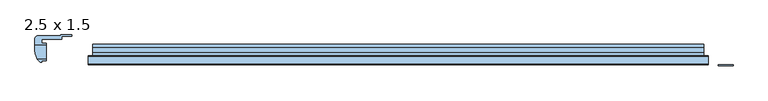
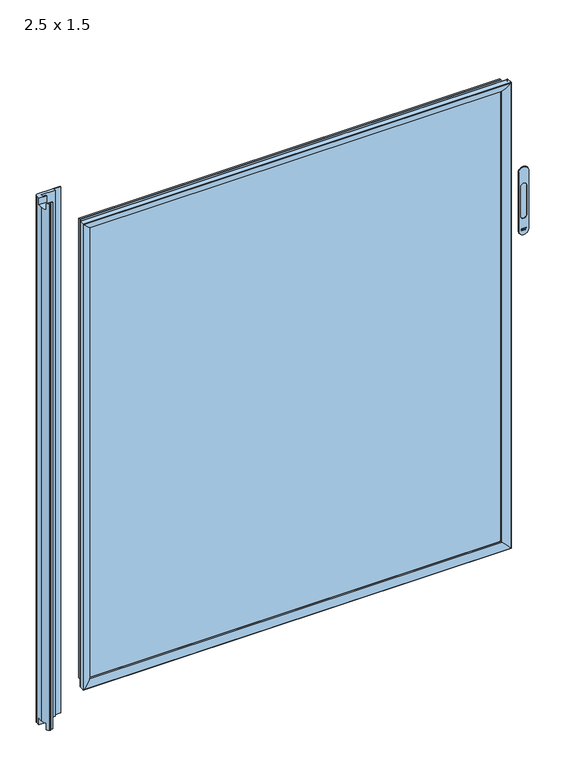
"""IFC4 building model written with IfcOpenShell, lengths in millimetres: window geometry, Windows_Opening-Slide_Strugal_S110P2_One-Leaf-Fixed-Leaf_INT (2) : 2.5 x 1.5."""

from ifc_helpers import new_model, si_unit, point, frame, frame_2d, origin, place, context, project, spatial, polyline, circle_curve, ellipse_curve, trimmed, segment, composite_curve, outline, extrude, source, transform, mapped, element, save
from ifc_brep_helpers import plane_surface, cylinder_surface, revolved_surface, advanced_brep


def window_2_5_x_1_5_7387efda(model_context):
    return source(origin(), model_context, "Body", "SolidModel", [
        extrude(outline(composite_curve([segment(polyline([(972.9586097, 1153.480139), (972.9586097, 1157.084604)]), True, "CONTINUOUS"), segment(trimmed(circle_curve(frame_2d((972.4036403, 1157.084604)), 0.5549694), [point((972.9586097, 1157.084604))], [point((971.8486709, 1157.0844702))], True, "CARTESIAN"), True, "CONTINUOUS"), segment(polyline([(971.8486709, 1157.0844702), (971.849708, 1152.7830396)]), True, "CONTINUOUS"), segment(trimmed(circle_curve(frame_2d((971.0399633, 1152.9448686)), 0.8257573), [point((971.849708, 1152.7830396))], [point((971.0048412, 1152.1198585))], False, "CARTESIAN"), True, "CONTINUOUS"), segment(polyline([(971.0048412, 1152.1198585), (971.0038007, 1157.2002755)]), True, "CONTINUOUS"), segment(trimmed(circle_curve(frame_2d((972.3627874, 1157.2005538)), 1.3589868), [point((971.0038007, 1157.2002755))], [point((973.7217741, 1157.2001632))], False, "CARTESIAN"), True, "CONTINUOUS"), segment(polyline([(973.7217741, 1157.2001632), (973.7207336, 1153.5797006)]), True, "CONTINUOUS"), segment(trimmed(circle_curve(frame_2d((974.2780726, 1153.5706444)), 0.5574126), [point((973.7207336, 1153.5797006))], [point((974.8354852, 1153.5706444))], True, "CARTESIAN"), True, "CONTINUOUS"), segment(polyline([(974.8354852, 1153.5706444), (974.8354852, 1160.934654), (970.9985413, 1160.934654), (970.9985413, 1161.7864395), (974.8354852, 1161.7864395), (974.8354852, 1163.117639)]), True, "CONTINUOUS"), segment(trimmed(circle_curve(frame_2d((975.5885857, 1163.117639)), 0.7531005), [point((974.8354852, 1163.117639))], [point((975.6906738, 1163.863788))], False, "CARTESIAN"), True, "CONTINUOUS"), segment(polyline([(975.6906738, 1163.863788), (975.6925581, 1153.5034825)]), True, "CONTINUOUS"), segment(trimmed(circle_curve(frame_2d((974.3254864, 1153.5032339)), 1.3670718), [point((975.6925581, 1153.5034825))], [point((972.9586097, 1153.480139))], False, "CARTESIAN"), True, "CONTINUOUS")], self_intersect=False)), frame((0.0, -72.7, 0.0), z_axis=(0.0, 1.0, 0.0), x_axis=(0.0, 0.0, 1.0)), (0.0, 0.0, 1.0), 2.2),
        advanced_brep(
        [(1171.0, -72.4, 972.0), (1171.0, -72.4, 1128.0), (1145.0, -72.4, 1128.0), (1145.0, -72.4, 972.0), (1150.2, -72.4, 1011.0), (1150.2, -72.4, 1089.0), (1165.8, -72.4, 1089.0), (1165.8, -72.4, 1011.0), (1171.0, -70.5, 972.0), (1145.0, -70.5, 972.0), (1145.0, -70.5, 1128.0), (1171.0, -70.5, 1128.0), (1150.2, -71.6358905, 1089.0), (1150.2, -71.6358905, 1011.0), (1165.8, -71.6358905, 1011.0), (1165.8, -71.6358905, 1089.0)],
        [
            (0, 1),
            (1, 2, circle_curve(frame((1158.0, -72.4, 1128.0), z_axis=(0.0, -1.0, 0.0), x_axis=(1.0, 0.0, 0.0)), 13.0)),
            (2, 3),
            (3, 0, circle_curve(frame((1158.0, -72.4, 972.0), z_axis=(0.0, -1.0, 0.0), x_axis=(1.0, 0.0, 0.0)), 13.0)),
            (4, 5),
            (5, 6, circle_curve(frame((1158.0, -72.4, 1089.0), z_axis=(0.0, 1.0, 0.0), x_axis=(1.0, 0.0, 0.0)), 7.8)),
            (6, 7),
            (7, 4, circle_curve(frame((1158.0, -72.4, 1011.0), z_axis=(0.0, 1.0, 0.0), x_axis=(1.0, 0.0, 0.0)), 7.8)),
            (8, 9, circle_curve(frame((1158.0, -70.5, 972.0), z_axis=(0.0, 1.0, 0.0), x_axis=(1.0, 0.0, 0.0)), 13.0)),
            (9, 10),
            (10, 11, circle_curve(frame((1158.0, -70.5, 1128.0), z_axis=(0.0, 1.0, 0.0), x_axis=(1.0, 0.0, 0.0)), 13.0)),
            (11, 8),
            (0, 8),
            (11, 1),
            (10, 2),
            (9, 3),
            (12, 13),
            (13, 14, circle_curve(frame((1158.0, -71.6358905, 1011.0), z_axis=(0.0, -1.0, 0.0), x_axis=(1.0, 0.0, 0.0)), 7.8)),
            (14, 15),
            (15, 12, circle_curve(frame((1158.0, -71.6358905, 1089.0), z_axis=(0.0, -1.0, 0.0), x_axis=(1.0, 0.0, 0.0)), 7.8)),
            (12, 5),
            (4, 13),
            (7, 14),
            (6, 15),
        ],
        [
            plane_surface(frame((1171.0, -72.4, 1128.0), z_axis=(0.0, -1.0, 0.0), x_axis=(0.0, 0.0, 1.0))),
            plane_surface(frame((1171.0, -70.5, 1128.0), z_axis=(0.0, 1.0, 0.0), x_axis=(0.0, 0.0, -1.0))),
            plane_surface(frame((1171.0, -72.4, 972.0), z_axis=(1.0, 0.0, 0.0), x_axis=(0.0, 1.0, 0.0))),
            cylinder_surface(frame((1158.0, -70.5, 1128.0), z_axis=(0.0, -1.0, 0.0), x_axis=(1.0, 0.0, 0.0)), 13.0),
            plane_surface(frame((1145.0, -72.4, 1128.0), z_axis=(-1.0, 0.0, 0.0), x_axis=(0.0, 1.0, 0.0))),
            cylinder_surface(frame((1158.0, -70.5, 972.0), z_axis=(0.0, -1.0, 0.0), x_axis=(1.0, 0.0, 0.0)), 13.0),
            plane_surface(frame((1150.2, -71.6358905, 1089.0), z_axis=(0.0, -1.0, 0.0), x_axis=(1.0055735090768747e-12, 0.0, 1.0))),
            plane_surface(frame((1150.2, -85.5, 1089.0), z_axis=(1.0, 0.0, -1.0055735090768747e-12), x_axis=(0.0, 1.0, 0.0))),
            revolved_surface(polyline([(1165.8, -72.4, 1011.0), (1165.8, -71.6358905, 1011.0)]), (1158.0, -71.6358905, 1011.0), (0.0, -1.0, 0.0)),
            plane_surface(frame((1165.8, -85.5, 1011.0), z_axis=(-1.0, 0.0, 0.0), x_axis=(0.0, 1.0, 0.0))),
            revolved_surface(polyline([(1165.8, -72.4, 1089.0), (1165.8, -71.6358905, 1089.0)]), (1158.0, -71.6358905, 1089.0), (0.0, -1.0, 0.0)),
        ],
        [
            (0, [[1, 2, 3, 4], [5, 6, 7, 8]]),
            (1, [[9, 10, 11, 12]]),
            (2, [[-1, 13, -12, 14]]),
            (3, [[-2, -14, -11, 15]]),
            (4, [[-3, -15, -10, 16]]),
            (5, [[-4, -16, -9, -13]]),
            (6, [[17, 18, 19, 20]]),
            (7, [[-17, 21, -5, 22]]),
            (8, [[-18, -22, -8, 23]]),
            (9, [[-19, -23, -7, 24]]),
            (10, [[-20, -24, -6, -21]]),
        ],
    ),
        extrude(outline(polyline([(44.5, -34.5), (1119.0, -34.5), (1119.0, -39.5), (44.5, -39.5), (44.5, -34.5)])), frame((0.0, 0.0, 131.0), z_axis=(0.0, 0.0, 1.0), x_axis=(1.0, 0.0, 0.0)), (0.0, 0.0, 1.0), 1238.0),
        extrude(outline(polyline([(1119.0, -49.5), (1119.0, -54.5), (44.5, -54.5), (44.5, -49.5), (1119.0, -49.5)])), frame((0.0, 0.0, 131.0), z_axis=(0.0, 0.0, 1.0), x_axis=(1.0, 0.0, 0.0)), (0.0, 0.0, 1.0), 1238.0),
        advanced_brep(
        [(-45.5, -25.5000003, 41.0), (-45.5, -32.5, 41.0), (-37.8000003, -32.5, 41.0), (-37.8000003, -35.6, 41.0), (-57.4999996, -35.6, 41.0), (-57.4999996, -25.221168, 41.0), (-51.4788318, -19.2000003, 41.0), (-11.7456831, -19.2000003, 41.0), (-11.7456831, -18.1000005, 41.0), (7.6997431, -18.1000005, 41.0), (7.6997431, -20.139316, 41.0), (-10.3, -20.5050638, 41.0), (-10.3, -25.5000003, 41.0), (-48.626173, -65.7234493, 41.0), (-53.0246429, -60.6, 41.0), (-37.8000003, -60.6, 41.0), (-37.8000003, -63.7, 41.0), (-45.5, -63.7, 41.0), (-45.5, -66.5000001, 41.0), (-46.6121537, -66.5000001, 41.0), (-45.5, -25.5000003, 1459.0), (-10.3, -25.5000003, 1459.0), (-10.3, -20.5050638, 1459.0), (7.6997431, -20.139316, 1459.0), (7.6997431, -18.1000005, 1459.0), (-11.7456831, -18.1000005, 1459.0), (-11.7456831, -19.2000003, 1459.0), (-51.4788318, -19.2000003, 1459.0), (-57.4999996, -25.221168, 1459.0), (-57.4999996, -35.6, 58.0), (-57.4999996, -45.7124064, 58.0), (-57.4999996, -45.7124064, 1442.0), (-57.4999996, -35.5, 1442.0), (-57.4999996, -35.5, 1459.0), (-48.626173, -65.7234493, 1459.0), (-53.0904196, -60.5, 1459.0), (-53.0904196, -60.5, 1442.0), (-53.0246429, -60.6, 58.0), (-46.6121537, -66.5, 1459.0), (-45.5, -66.5000001, 1459.0), (-45.5, -63.7, 1459.0), (-37.8000003, -63.7, 1459.0), (-37.8000003, -60.6, 58.0), (-37.8000003, -35.6, 58.0), (-37.8000003, -32.5, 1459.0), (-37.8000003, -35.5, 1459.0), (-37.8000003, -35.5, 1442.0), (-37.8000003, -60.5, 1442.0), (-37.8000003, -60.5, 1459.0), (-45.5, -32.5, 1459.0)],
        [
            (0, 1),
            (1, 2),
            (2, 3),
            (3, 4),
            (4, 5),
            (5, 6, circle_curve(frame((-51.4788318, -25.221168, 41.0), z_axis=(0.0, 0.0, -1.0), x_axis=(0.0, -1.0, 0.0)), 6.0211677)),
            (6, 7),
            (7, 8),
            (8, 9),
            (9, 10),
            (10, 11),
            (11, 12),
            (12, 0),
            (13, 14, circle_curve(frame((-30.4999996, -45.7124064, 41.0), z_axis=(0.0, 0.0, -1.0), x_axis=(0.0, -1.0, 0.0)), 27.0)),
            (14, 15),
            (15, 16),
            (16, 17),
            (17, 18),
            (18, 19),
            (19, 13, circle_curve(frame((-46.6121537, -63.5, 41.0), z_axis=(0.0, 0.0, -1.0), x_axis=(0.0, -1.0, 0.0)), 3.0)),
            (20, 0),
            (12, 21),
            (21, 20),
            (11, 22),
            (22, 21),
            (10, 23),
            (23, 22),
            (9, 24),
            (24, 23),
            (8, 25),
            (25, 24),
            (7, 26),
            (26, 25),
            (6, 27),
            (27, 26),
            (5, 28),
            (28, 27, circle_curve(frame((-51.4788318, -25.221168, 1459.0), z_axis=(0.0, 0.0, -1.0), x_axis=(0.0, -1.0, 0.0)), 6.0211677)),
            (4, 29),
            (29, 30),
            (30, 31),
            (31, 32),
            (32, 33),
            (33, 28),
            (34, 35, circle_curve(frame((-30.4999996, -45.7124064, 1459.0), z_axis=(0.0, 0.0, -1.0), x_axis=(0.0, -1.0, 0.0)), 27.0)),
            (35, 36),
            (36, 31, circle_curve(frame((-30.4999996, -45.7124064, 1442.0), z_axis=(0.0, 0.0, -1.0), x_axis=(0.0, -1.0, 0.0)), 27.0)),
            (30, 37, circle_curve(frame((-30.4999996, -45.7124064, 58.0), z_axis=(0.0, 0.0, 1.0), x_axis=(0.0, -1.0, 0.0)), 27.0)),
            (37, 14),
            (13, 34),
            (19, 38),
            (38, 34, circle_curve(frame((-46.6121537, -63.5, 1459.0), z_axis=(0.0, 0.0, -1.0), x_axis=(0.0, -1.0, 0.0)), 3.0)),
            (18, 39),
            (39, 38),
            (17, 40),
            (40, 39),
            (16, 41),
            (41, 40),
            (15, 42),
            (42, 43),
            (43, 3),
            (2, 44),
            (44, 45),
            (45, 46),
            (46, 47),
            (47, 48),
            (48, 41),
            (1, 49),
            (49, 44),
            (20, 49),
            (33, 45),
            (48, 35),
            (43, 29),
            (37, 42),
            (47, 36),
            (46, 32),
        ],
        [
            plane_surface(frame((-45.5, -25.5, 41.0), z_axis=(0.0, 0.0, -1.0), x_axis=(0.0, -1.0, 0.0))),
            plane_surface(frame((-10.3, -25.5000003, 1459.0), z_axis=(0.0, -1.0, 0.0), x_axis=(0.0, 0.0, -1.0))),
            plane_surface(frame((-10.3, -20.5050638, 1459.0), z_axis=(1.0, 0.0, 0.0), x_axis=(0.0, 0.0, -1.0))),
            plane_surface(frame((7.6997431, -20.139316, 1459.0), z_axis=(0.020315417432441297, -0.9997936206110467, 0.0), x_axis=(0.0, 0.0, -1.0))),
            plane_surface(frame((7.6997431, -18.1000005, 1459.0), z_axis=(1.0, 0.0, 0.0), x_axis=(0.0, 0.0, -1.0))),
            plane_surface(frame((-11.7456831, -18.1000005, 1459.0), z_axis=(0.0, 1.0, 0.0), x_axis=(0.0, 0.0, -1.0))),
            plane_surface(frame((-11.7456831, -19.2000003, 1459.0), z_axis=(-1.0, 0.0, 0.0), x_axis=(0.0, 0.0, -1.0))),
            plane_surface(frame((-51.4788318, -19.2000003, 1459.0), z_axis=(0.0, 1.0, 0.0), x_axis=(0.0, 0.0, -1.0))),
            cylinder_surface(frame((-51.4788318, -25.221168, 1459.0), z_axis=(0.0, 0.0, 1.0), x_axis=(0.0, -1.0, 0.0)), 6.0211677),
            plane_surface(frame((-57.4999996, -45.7124064, 1459.0), z_axis=(-1.0, 0.0, 0.0), x_axis=(0.0, 0.0, -1.0))),
            cylinder_surface(frame((-30.4999996, -45.7124064, 1459.0), z_axis=(0.0, 0.0, 1.0), x_axis=(0.0, -1.0, 0.0)), 27.0),
            cylinder_surface(frame((-46.6121537, -63.5, 1459.0), z_axis=(0.0, 0.0, 1.0), x_axis=(0.0, -1.0, 0.0)), 3.0),
            plane_surface(frame((-45.5, -66.5000001, 1459.0), z_axis=(0.0, -1.0, 0.0), x_axis=(0.0, 0.0, -1.0))),
            plane_surface(frame((-45.5, -63.7, 1459.0), z_axis=(1.0, 0.0, 0.0), x_axis=(0.0, 0.0, -1.0))),
            plane_surface(frame((-37.8000003, -63.7, 1459.0), z_axis=(0.0, -1.0, 0.0), x_axis=(0.0, 0.0, -1.0))),
            plane_surface(frame((-37.8000003, -32.5, 1459.0), z_axis=(1.0, 0.0, 0.0), x_axis=(0.0, 0.0, -1.0))),
            plane_surface(frame((-45.5, -32.5, 1459.0), z_axis=(0.0, 1.0, 0.0), x_axis=(0.0, 0.0, -1.0))),
            plane_surface(frame((-45.5, -25.5000003, 1459.0), z_axis=(1.0, 0.0, 0.0), x_axis=(0.0, 0.0, -1.0))),
            plane_surface(frame((-45.5, -25.5, 1459.0), z_axis=(0.0, 0.0, 1.0), x_axis=(0.0, -1.0, 0.0))),
            plane_surface(frame((-65.5, -35.6, 41.0), z_axis=(0.0, -1.0, 0.0), x_axis=(1.0, 0.0, 0.0))),
            plane_surface(frame((-65.5, -60.6, 58.0), z_axis=(0.0, 1.0, 0.0), x_axis=(1.0, 0.0, 0.0))),
            plane_surface(frame((-65.5, -35.6, 58.0), z_axis=(0.0, 0.0, -1.0), x_axis=(1.0, 0.0, 0.0))),
            plane_surface(frame((-65.5, -60.5, 1459.0), z_axis=(0.0, 1.0, 0.0), x_axis=(1.0, 0.0, 0.0))),
            plane_surface(frame((-65.5, -60.5, 1442.0), z_axis=(0.0, 0.0, 1.0), x_axis=(1.0, 0.0, 0.0))),
            plane_surface(frame((-65.5, -35.5, 1442.0), z_axis=(0.0, -1.0, 0.0), x_axis=(1.0, 0.0, 0.0))),
        ],
        [
            (0, [[1, 2, 3, 4, 5, 6, 7, 8, 9, 10, 11, 12, 13]]),
            (0, [[14, 15, 16, 17, 18, 19, 20]]),
            (1, [[21, -13, 22, 23]]),
            (2, [[-22, -12, 24, 25]]),
            (3, [[-24, -11, 26, 27]]),
            (4, [[-26, -10, 28, 29]]),
            (5, [[-28, -9, 30, 31]]),
            (6, [[-30, -8, 32, 33]]),
            (7, [[-32, -7, 34, 35]]),
            (8, [[-34, -6, 36, 37]]),
            (9, [[-5, 38, 39, 40, 41, 42, 43, -36]]),
            (10, [[44, 45, 46, -40, 47, 48, -14, 49]]),
            (11, [[-49, -20, 50, 51]]),
            (12, [[-50, -19, 52, 53]]),
            (13, [[-52, -18, 54, 55]]),
            (14, [[-54, -17, 56, 57]]),
            (15, [[-16, 58, 59, 60, -3, 61, 62, 63, 64, 65, 66, -56]]),
            (16, [[-61, -2, 67, 68]]),
            (17, [[-67, -1, -21, 69]]),
            (18, [[-23, -25, -27, -29, -31, -33, -35, -37, -43, 70, -62, -68, -69]]),
            (18, [[-66, 71, -44, -51, -53, -55, -57]]),
            (19, [[-38, -4, -60, 72]]),
            (20, [[-58, -15, -48, 73]]),
            (21, [[-47, -39, -72, -59, -73]]),
            (22, [[-45, -71, -65, 74]]),
            (23, [[-64, 75, -41, -46, -74]]),
            (24, [[-63, -70, -42, -75]]),
        ],
    ),
        extrude(outline(polyline([(1369.0, 44.5), (131.0, 44.5), (131.0, 1119.0), (1369.0, 1119.0), (1369.0, 44.5)]), holes=[polyline([(141.0, 54.5), (1359.0, 54.5), (1359.0, 1109.0), (141.0, 1109.0), (141.0, 54.5)])]), frame((0.0, -49.5, 0.0), z_axis=(0.0, 1.0, 0.0), x_axis=(0.0, 0.0, 1.0)), (0.0, 0.0, 1.0), 10.0),
        advanced_brep(
        [(37.9, -55.95, 1375.6), (37.9, -55.95, 124.4), (36.0, -55.95, 122.5), (36.0, -55.95, 1377.5), (36.0, -69.5634492, 122.5), (36.0, -69.5634492, 1377.5), (1125.6, -55.95, 124.4), (1127.5, -55.95, 122.5), (37.9, -59.0, 1375.6), (37.9, -59.0, 124.4), (1125.6, -59.0, 124.4), (1125.6, -59.0, 1375.6), (55.0341742, -59.0, 1358.4658258), (55.0341742, -59.0, 141.5341742), (1108.4658258, -59.0, 141.5341742), (1108.4658258, -59.0, 1358.4658258), (56.0, -59.9658258, 1357.5), (56.0, -59.9658258, 142.5), (1107.5, -59.9658258, 142.5), (56.0, -63.9639562, 1357.5), (56.0, -63.9639562, 142.5), (1107.5, -63.9639562, 142.5), (36.8427132, -70.4558146, 1376.6572868), (36.8427132, -70.4558146, 123.3427132), (1126.6572868, -70.4558146, 123.3427132), (1127.5, -69.5634492, 122.5), (1125.6, -55.95, 1375.6), (1127.5, -55.95, 1377.5), (1107.5, -59.9658258, 1357.5), (1107.5, -63.9639562, 1357.5), (1126.6572868, -70.4558146, 1376.6572868), (1127.5, -69.5634492, 1377.5)],
        [
            (0, 1),
            (1, 2, ellipse_curve(frame((36.95, -55.95, 123.45), z_axis=(-0.7071067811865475, 0.0, 0.7071067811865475), x_axis=(0.7071067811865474, 0.0, 0.7071067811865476)), 1.3435029, 0.95)),
            (2, 3),
            (3, 0, ellipse_curve(frame((36.95, -55.95, 1376.55), z_axis=(-0.7071067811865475, 0.0, -0.7071067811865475), x_axis=(-0.7071067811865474, 0.0, 0.7071067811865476)), 1.3435029, 0.95)),
            (2, 4),
            (4, 5),
            (5, 3),
            (1, 6),
            (6, 7, ellipse_curve(frame((1126.55, -55.95, 123.45), z_axis=(-0.7071067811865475, 0.0, -0.7071067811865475), x_axis=(-0.7071067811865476, 0.0, 0.7071067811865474)), 1.3435029, 0.95)),
            (7, 2),
            (8, 9),
            (9, 1),
            (0, 8),
            (9, 10),
            (10, 6),
            (8, 11),
            (11, 10),
            (12, 13),
            (13, 14),
            (14, 15),
            (15, 12),
            (16, 17),
            (17, 13, ellipse_curve(frame((55.0341742, -59.9658258, 141.5341742), z_axis=(-0.7071067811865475, 0.0, 0.7071067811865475), x_axis=(0.7071067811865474, 0.0, 0.7071067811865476)), 1.365884, 0.9658258)),
            (12, 16, ellipse_curve(frame((55.0341742, -59.9658258, 1358.4658258), z_axis=(-0.7071067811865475, 0.0, -0.7071067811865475), x_axis=(-0.7071067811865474, 0.0, 0.7071067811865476)), 1.365884, 0.9658258)),
            (17, 18),
            (18, 14, ellipse_curve(frame((1108.4658258, -59.9658258, 141.5341742), z_axis=(-0.7071067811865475, 0.0, -0.7071067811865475), x_axis=(-0.7071067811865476, 0.0, 0.7071067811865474)), 1.365884, 0.9658258)),
            (19, 20),
            (20, 17),
            (16, 19),
            (20, 21),
            (21, 18),
            (22, 23),
            (23, 20, ellipse_curve(frame((38.3867523, -43.5, 124.8867523), z_axis=(-0.7071067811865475, 0.0, 0.7071067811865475), x_axis=(0.7071067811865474, 0.0, 0.7071067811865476)), 38.1837662, 27.0)),
            (19, 22, ellipse_curve(frame((38.3867523, -43.5, 1375.1132477), z_axis=(-0.7071067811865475, 0.0, -0.7071067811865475), x_axis=(-0.7071067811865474, 0.0, 0.7071067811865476)), 38.1837662, 27.0)),
            (23, 24),
            (24, 21, ellipse_curve(frame((1125.1132477, -43.5, 124.8867523), z_axis=(-0.7071067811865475, 0.0, -0.7071067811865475), x_axis=(-0.7071067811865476, 0.0, 0.7071067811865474)), 38.1837662, 27.0)),
            (4, 23, ellipse_curve(frame((36.8938282, -69.5634492, 123.3938282), z_axis=(-0.7071067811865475, 0.0, 0.7071067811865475), x_axis=(0.7071067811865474, 0.0, 0.7071067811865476)), 1.2640639, 0.8938282)),
            (22, 5, ellipse_curve(frame((36.8938282, -69.5634492, 1376.6061718), z_axis=(-0.7071067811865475, 0.0, -0.7071067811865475), x_axis=(-0.7071067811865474, 0.0, 0.7071067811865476)), 1.2640639, 0.8938282)),
            (4, 25),
            (25, 24, ellipse_curve(frame((1126.6061718, -69.5634492, 123.3938282), z_axis=(-0.7071067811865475, 0.0, -0.7071067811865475), x_axis=(-0.7071067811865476, 0.0, 0.7071067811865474)), 1.2640639, 0.8938282)),
            (7, 25),
            (6, 26),
            (26, 27, ellipse_curve(frame((1126.55, -55.95, 1376.55), z_axis=(0.7071067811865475, 0.0, -0.7071067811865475), x_axis=(-0.7071067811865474, 0.0, -0.7071067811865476)), 1.3435029, 0.95)),
            (27, 7),
            (11, 26),
            (18, 28),
            (28, 15, ellipse_curve(frame((1108.4658258, -59.9658258, 1358.4658258), z_axis=(0.7071067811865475, 0.0, -0.7071067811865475), x_axis=(-0.7071067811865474, 0.0, -0.7071067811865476)), 1.365884, 0.9658258)),
            (21, 29),
            (29, 28),
            (24, 30),
            (30, 29, ellipse_curve(frame((1125.1132477, -43.5, 1375.1132477), z_axis=(0.7071067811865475, 0.0, -0.7071067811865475), x_axis=(-0.7071067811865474, 0.0, -0.7071067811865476)), 38.1837662, 27.0)),
            (25, 31),
            (31, 30, ellipse_curve(frame((1126.6061718, -69.5634492, 1376.6061718), z_axis=(0.7071067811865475, 0.0, -0.7071067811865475), x_axis=(-0.7071067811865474, 0.0, -0.7071067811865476)), 1.2640639, 0.8938282)),
            (27, 31),
            (26, 0),
            (3, 27),
            (28, 16),
            (29, 19),
            (30, 22),
            (31, 5),
        ],
        [
            cylinder_surface(frame((36.95, -55.95, 1459.0), z_axis=(0.0, 0.0, 1.0), x_axis=(1.0, 0.0, 0.0)), 0.95),
            plane_surface(frame((36.0, -69.5634492, 1377.5), z_axis=(-1.0, 0.0, 0.0), x_axis=(0.0, 0.0, -1.0))),
            cylinder_surface(frame((-45.5, -55.95, 123.45), z_axis=(-1.0, 0.0, 0.0), x_axis=(0.0, 0.0, 1.0)), 0.95),
            plane_surface(frame((37.9, -55.95, 1375.6), z_axis=(1.0, 0.0, 0.0), x_axis=(0.0, 0.0, -1.0))),
            plane_surface(frame((37.9, -55.95, 124.4), z_axis=(0.0, 0.0, 1.0), x_axis=(1.0, 0.0, 0.0))),
            plane_surface(frame((1125.6, -59.0, 1375.6), z_axis=(0.0, 1.0, 0.0), x_axis=(-1.0, 0.0, 0.0))),
            cylinder_surface(frame((55.0341742, -59.9658258, 1459.0), z_axis=(0.0, 0.0, 1.0), x_axis=(1.0, 0.0, 0.0)), 0.9658258),
            cylinder_surface(frame((-45.5, -59.9658258, 141.5341742), z_axis=(-1.0, 0.0, 0.0), x_axis=(0.0, 0.0, 1.0)), 0.9658258),
            plane_surface(frame((56.0, -59.9658258, 1357.5), z_axis=(1.0, 0.0, 0.0), x_axis=(0.0, 0.0, -1.0))),
            plane_surface(frame((56.0, -59.9658258, 142.5), z_axis=(0.0, 0.0, 1.0), x_axis=(1.0, 0.0, 0.0))),
            cylinder_surface(frame((38.3867523, -43.5, 1459.0), z_axis=(0.0, 0.0, 1.0), x_axis=(1.0, 0.0, 0.0)), 27.0),
            cylinder_surface(frame((-45.5, -43.5, 124.8867523), z_axis=(-1.0, 0.0, 0.0), x_axis=(0.0, 0.0, 1.0)), 27.0),
            cylinder_surface(frame((36.8938282, -69.5634492, 1459.0), z_axis=(0.0, 0.0, 1.0), x_axis=(1.0, 0.0, 0.0)), 0.8938282),
            cylinder_surface(frame((-45.5, -69.5634492, 123.3938282), z_axis=(-1.0, 0.0, 0.0), x_axis=(0.0, 0.0, 1.0)), 0.8938282),
            plane_surface(frame((36.0, -69.5634492, 122.5), z_axis=(0.0, 0.0, -1.0), x_axis=(1.0, 0.0, 0.0))),
            cylinder_surface(frame((1126.55, -55.95, 41.0), z_axis=(0.0, 0.0, -1.0), x_axis=(-1.0, 0.0, 0.0)), 0.95),
            plane_surface(frame((1125.6, -55.95, 124.4), z_axis=(-1.0, 0.0, 0.0), x_axis=(0.0, 0.0, 1.0))),
            cylinder_surface(frame((1108.4658258, -59.9658258, 41.0), z_axis=(0.0, 0.0, -1.0), x_axis=(-1.0, 0.0, 0.0)), 0.9658258),
            plane_surface(frame((1107.5, -59.9658258, 142.5), z_axis=(-1.0, 0.0, 0.0), x_axis=(0.0, 0.0, 1.0))),
            cylinder_surface(frame((1125.1132477, -43.5, 41.0), z_axis=(0.0, 0.0, -1.0), x_axis=(-1.0, 0.0, 0.0)), 27.0),
            cylinder_surface(frame((1126.6061718, -69.5634492, 41.0), z_axis=(0.0, 0.0, -1.0), x_axis=(-1.0, 0.0, 0.0)), 0.8938282),
            plane_surface(frame((1127.5, -69.5634492, 122.5), z_axis=(1.0, 0.0, 0.0), x_axis=(0.0, 0.0, 1.0))),
            cylinder_surface(frame((1209.0, -55.95, 1376.55), z_axis=(1.0, 0.0, 0.0), x_axis=(0.0, 0.0, -1.0)), 0.95),
            plane_surface(frame((1125.6, -55.95, 1375.6), z_axis=(0.0, 0.0, -1.0), x_axis=(-1.0, 0.0, 0.0))),
            cylinder_surface(frame((1209.0, -59.9658258, 1358.4658258), z_axis=(1.0, 0.0, 0.0), x_axis=(0.0, 0.0, -1.0)), 0.9658258),
            plane_surface(frame((1107.5, -59.9658258, 1357.5), z_axis=(0.0, 0.0, -1.0), x_axis=(-1.0, 0.0, 0.0))),
            cylinder_surface(frame((1209.0, -43.5, 1375.1132477), z_axis=(1.0, 0.0, 0.0), x_axis=(0.0, 0.0, -1.0)), 27.0),
            cylinder_surface(frame((1209.0, -69.5634492, 1376.6061718), z_axis=(1.0, 0.0, 0.0), x_axis=(0.0, 0.0, -1.0)), 0.8938282),
            plane_surface(frame((1127.5, -69.5634492, 1377.5), z_axis=(0.0, 0.0, 1.0), x_axis=(-1.0, 0.0, 0.0))),
        ],
        [
            (0, [[1, 2, 3, 4]]),
            (1, [[-3, 5, 6, 7]]),
            (2, [[8, 9, 10, -2]]),
            (3, [[11, 12, -1, 13]]),
            (4, [[14, 15, -8, -12]]),
            (5, [[-11, 16, 17, -14], [18, 19, 20, 21]]),
            (6, [[22, 23, -18, 24]]),
            (7, [[25, 26, -19, -23]]),
            (8, [[27, 28, -22, 29]]),
            (9, [[30, 31, -25, -28]]),
            (10, [[32, 33, -27, 34]]),
            (11, [[35, 36, -30, -33]]),
            (12, [[-6, 37, -32, 38]]),
            (13, [[39, 40, -35, -37]]),
            (14, [[-10, 41, -39, -5]]),
            (15, [[42, 43, 44, -9]]),
            (16, [[-17, 45, -42, -15]]),
            (17, [[46, 47, -20, -26]]),
            (18, [[48, 49, -46, -31]]),
            (19, [[50, 51, -48, -36]]),
            (20, [[52, 53, -50, -40]]),
            (21, [[-44, 54, -52, -41]]),
            (22, [[55, -4, 56, -43]]),
            (23, [[-16, -13, -55, -45]]),
            (24, [[57, -24, -21, -47]]),
            (25, [[58, -29, -57, -49]]),
            (26, [[59, -34, -58, -51]]),
            (27, [[60, -38, -59, -53]]),
            (28, [[-56, -7, -60, -54]]),
        ],
    ),
    ])


if __name__ == "__main__":
    model = new_model("IFC4")
    model_context = context("Model", 3, world=origin())
    ifc_project = project(units=[si_unit("LENGTHUNIT", "METRE", prefix="MILLI")], contexts=[model_context])
    site = spatial("IfcSite", under=ifc_project)
    building = spatial("IfcBuilding", under=site)
    placement = place(None, origin())
    window_2_5_x_1_5_shape = window_2_5_x_1_5_7387efda(model_context)
    element("IfcWindow", 1, ObjectType="Windows_Opening-Slide_Strugal_S110P2_One-Leaf-Fixed-Leaf_INT (2) : 2.5 x 1.5", at=placement, inside=building, context=model_context, shape_type="MappedRepresentation", body=[
        mapped(window_2_5_x_1_5_shape, transform((0.0, 0.0, 0.0), x_axis=(1.0, 0.0, 0.0), y_axis=(0.0, 1.0, 0.0), z_axis=(0.0, 0.0, 1.0))),
    ])
    save(model, "model.ifc")
